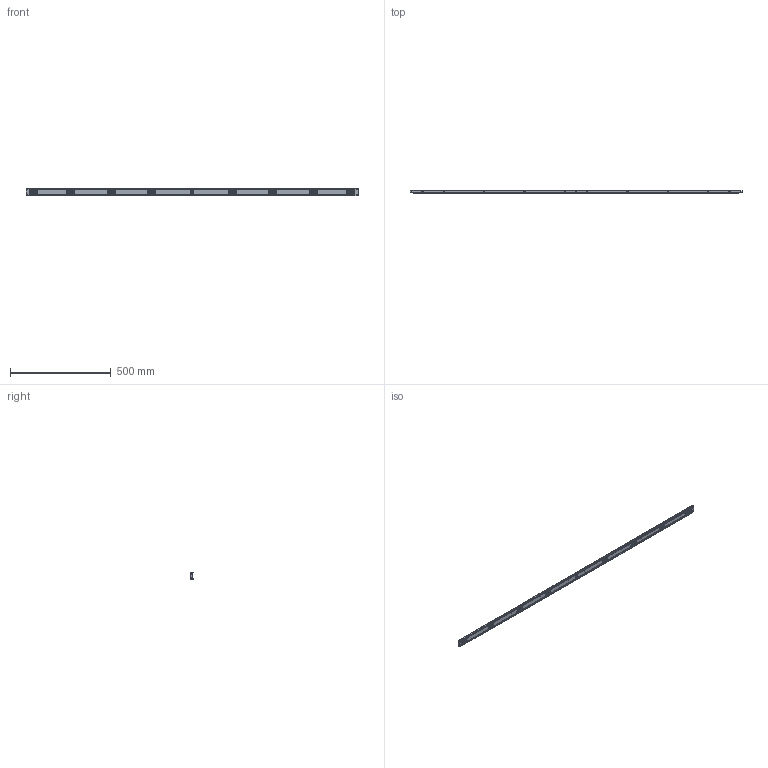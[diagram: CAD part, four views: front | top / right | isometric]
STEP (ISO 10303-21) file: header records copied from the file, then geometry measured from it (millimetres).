
FILE_DESCRIPTION(('Creo Elements/Direct Modeling STEP Export'),'2;1');
FILE_NAME('B3-1540.stp','2020-11-02T12:08:01',(''),(''),'Creo Elements/Direct Modeling STEP processor for AP214 (Solid Model)','Creo Elements/Direct Modeling 19.0G 27-Nov-2017 (C) Parametric Technology GmbH','');
FILE_SCHEMA(('AUTOMOTIVE_DESIGN { 1 0 10303 214 1 1 1 1 }'));
Products named in the file (2): PERFIL_SOPORTE_MECANIZADO_REGLA_SV3-1540
Assembly tree (1 placements, depth 2):
  PERFIL_SOPORTE_MECANIZADO_REGLA_SV3-1540
    PERFIL_SOPORTE_MECANIZADO_REGLA_SV3-1540
Bounding box: 1645 x 12.13 x 36.1 mm (x, y, z)
Volume: 394034.2 mm3; surface area: 206550.5 mm2
Topology: 1 solids, 1 shells, 2068 faces, 6114 edges, 4050 vertices
Faces by surface type: plane 1162, cylinder 694, cone 132, torus 40, bspline 40
Entity records: 77277 total; most frequent: CARTESIAN_POINT 16942, ORIENTED_EDGE 12204, DIRECTION 10332, EDGE_CURVE 6102, VERTEX_POINT 4050, VECTOR 3480, LINE 3480, AXIS2_PLACEMENT_3D 3426
